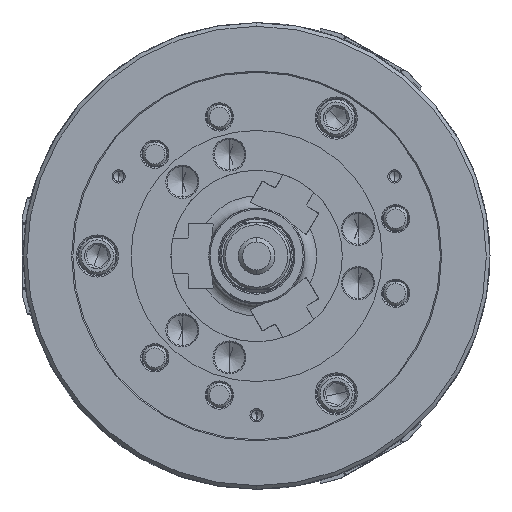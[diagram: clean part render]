
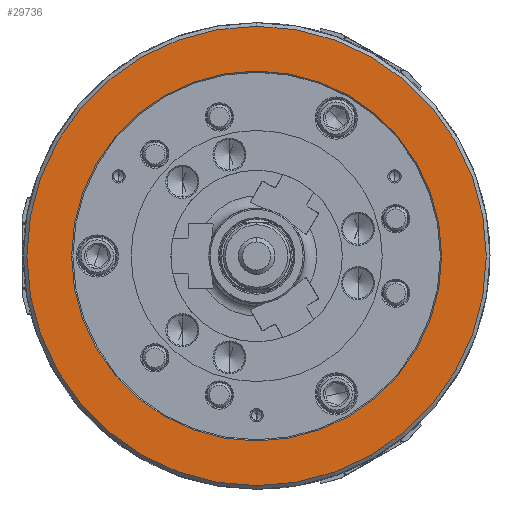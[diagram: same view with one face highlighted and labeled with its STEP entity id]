
A CAD part, left-side view. The second image highlights one B-rep face of the part: STEP entity #29736.
In plain terms, the highlighted planar face has unit normal (-1, 0, 0).
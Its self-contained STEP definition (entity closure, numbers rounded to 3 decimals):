
#4104 = AXIS2_PLACEMENT_3D ( 'NONE', #64214, #84440, #124181 ) ;
#5564 = CIRCLE ( 'NONE', #80867, 151. ) ;
#6065 = EDGE_CURVE ( 'NONE', #46386, #37184, #107982, .T. ) ;
#6222 = CIRCLE ( 'NONE', #4104, 187.5 ) ;
#9631 = FACE_OUTER_BOUND ( 'NONE', #21875, .T. ) ;
#9747 = EDGE_CURVE ( 'NONE', #37184, #46386, #5564, .T. ) ;
#16636 = ORIENTED_EDGE ( 'NONE', *, *, #19476, .F. ) ;
#19369 = ORIENTED_EDGE ( 'NONE', *, *, #9747, .T. ) ;
#19476 = EDGE_CURVE ( 'NONE', #113073, #103649, #120592, .T. ) ;
#21619 = AXIS2_PLACEMENT_3D ( 'NONE', #54439, #56476, #75330 ) ;
#21875 = EDGE_LOOP ( 'NONE', ( #16636, #119915 ) ) ;
#29736 = ADVANCED_FACE ( 'NONE', ( #9631, #50056 ), #132914, .F. ) ;
#30275 = DIRECTION ( 'NONE',  ( 1., 0., 0. ) ) ;
#31594 = CARTESIAN_POINT ( 'NONE',  ( -114., 0., 0. ) ) ;
#37184 = VERTEX_POINT ( 'NONE', #127169 ) ;
#37383 = ORIENTED_EDGE ( 'NONE', *, *, #6065, .T. ) ;
#46386 = VERTEX_POINT ( 'NONE', #104716 ) ;
#48084 = DIRECTION ( 'NONE',  ( 0., 0., -1. ) ) ;
#50056 = FACE_BOUND ( 'NONE', #101676, .T. ) ;
#54439 = CARTESIAN_POINT ( 'NONE',  ( -114., 0., 0. ) ) ;
#55488 = CARTESIAN_POINT ( 'NONE',  ( -114., 0., -187.5 ) ) ;
#56476 = DIRECTION ( 'NONE',  ( 1., 0., 0. ) ) ;
#60209 = DIRECTION ( 'NONE',  ( 1., 0., 0. ) ) ;
#61951 = DIRECTION ( 'NONE',  ( 0., 0., -1. ) ) ;
#62782 = EDGE_CURVE ( 'NONE', #103649, #113073, #6222, .T. ) ;
#64214 = CARTESIAN_POINT ( 'NONE',  ( -114., 0., 0. ) ) ;
#75330 = DIRECTION ( 'NONE',  ( 0., 0., -1. ) ) ;
#77637 = AXIS2_PLACEMENT_3D ( 'NONE', #84375, #83062, #124131 ) ;
#79786 = AXIS2_PLACEMENT_3D ( 'NONE', #80422, #60209, #48084 ) ;
#80422 = CARTESIAN_POINT ( 'NONE',  ( -114., -187.5, 0. ) ) ;
#80867 = AXIS2_PLACEMENT_3D ( 'NONE', #31594, #30275, #61951 ) ;
#83062 = DIRECTION ( 'NONE',  ( 1., 0., 0. ) ) ;
#84375 = CARTESIAN_POINT ( 'NONE',  ( -114., 0., 0. ) ) ;
#84440 = DIRECTION ( 'NONE',  ( 1., 0., 0. ) ) ;
#101676 = EDGE_LOOP ( 'NONE', ( #19369, #37383 ) ) ;
#103649 = VERTEX_POINT ( 'NONE', #113400 ) ;
#104716 = CARTESIAN_POINT ( 'NONE',  ( -114., 0., -151. ) ) ;
#107982 = CIRCLE ( 'NONE', #21619, 151. ) ;
#113073 = VERTEX_POINT ( 'NONE', #55488 ) ;
#113400 = CARTESIAN_POINT ( 'NONE',  ( -114., 0., 187.5 ) ) ;
#119915 = ORIENTED_EDGE ( 'NONE', *, *, #62782, .F. ) ;
#120592 = CIRCLE ( 'NONE', #77637, 187.5 ) ;
#124131 = DIRECTION ( 'NONE',  ( 0., 0., -1. ) ) ;
#124181 = DIRECTION ( 'NONE',  ( 0., 0., -1. ) ) ;
#127169 = CARTESIAN_POINT ( 'NONE',  ( -114., 0., 151. ) ) ;
#132914 = PLANE ( 'NONE',  #79786 ) ;
